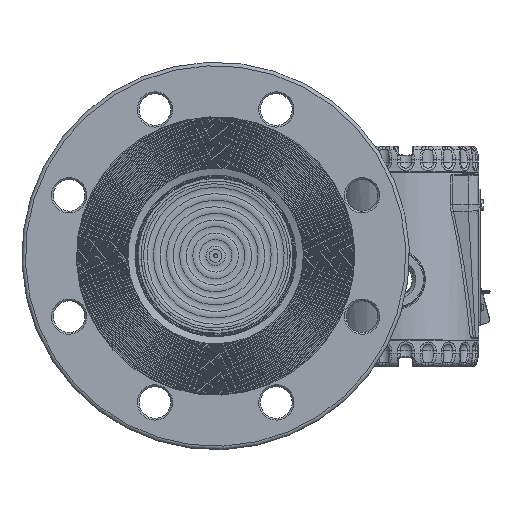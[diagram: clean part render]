
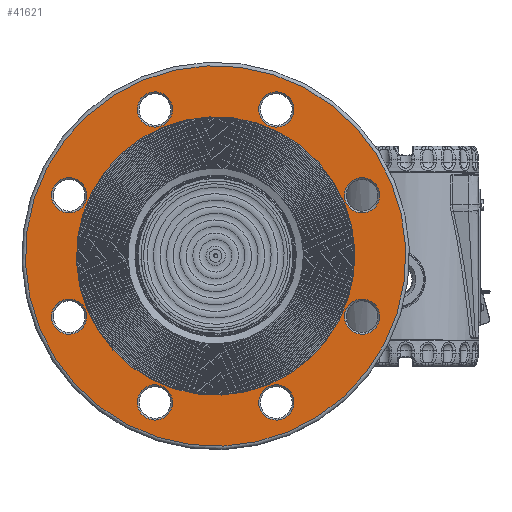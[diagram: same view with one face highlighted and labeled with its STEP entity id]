
A CAD part, top view. The second image highlights one B-rep face of the part: STEP entity #41621.
In plain terms, the highlighted planar face has unit normal (0, 0, 1).
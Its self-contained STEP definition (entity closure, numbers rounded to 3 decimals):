
#695=FACE_BOUND('',#6939,.T.);
#696=FACE_BOUND('',#6940,.T.);
#697=FACE_BOUND('',#6941,.T.);
#698=FACE_BOUND('',#6942,.T.);
#699=FACE_BOUND('',#6943,.T.);
#700=FACE_BOUND('',#6944,.T.);
#701=FACE_BOUND('',#6945,.T.);
#702=FACE_BOUND('',#6946,.T.);
#703=FACE_BOUND('',#6947,.T.);
#2713=PLANE('',#46307);
#4145=FACE_OUTER_BOUND('',#6938,.T.);
#6938=EDGE_LOOP('',(#31840));
#6939=EDGE_LOOP('',(#31841));
#6940=EDGE_LOOP('',(#31842));
#6941=EDGE_LOOP('',(#31843));
#6942=EDGE_LOOP('',(#31844));
#6943=EDGE_LOOP('',(#31845));
#6944=EDGE_LOOP('',(#31846));
#6945=EDGE_LOOP('',(#31847));
#6946=EDGE_LOOP('',(#31848));
#6947=EDGE_LOOP('',(#31849));
#13778=CIRCLE('',#46306,108.);
#13779=CIRCLE('',#46308,10.);
#13780=CIRCLE('',#46309,10.);
#13781=CIRCLE('',#46310,10.);
#13782=CIRCLE('',#46311,10.);
#13783=CIRCLE('',#46312,79.);
#13784=CIRCLE('',#46313,10.);
#13785=CIRCLE('',#46314,10.);
#13786=CIRCLE('',#46315,10.);
#13787=CIRCLE('',#46316,10.);
#18309=VERTEX_POINT('',#73694);
#18310=VERTEX_POINT('',#73698);
#18311=VERTEX_POINT('',#73700);
#18312=VERTEX_POINT('',#73702);
#18313=VERTEX_POINT('',#73704);
#18314=VERTEX_POINT('',#73706);
#18315=VERTEX_POINT('',#73708);
#18316=VERTEX_POINT('',#73710);
#18317=VERTEX_POINT('',#73712);
#18318=VERTEX_POINT('',#73714);
#23112=EDGE_CURVE('',#18309,#18309,#13778,.T.);
#23113=EDGE_CURVE('',#18310,#18310,#13779,.T.);
#23114=EDGE_CURVE('',#18311,#18311,#13780,.T.);
#23115=EDGE_CURVE('',#18312,#18312,#13781,.T.);
#23116=EDGE_CURVE('',#18313,#18313,#13782,.T.);
#23117=EDGE_CURVE('',#18314,#18314,#13783,.T.);
#23118=EDGE_CURVE('',#18315,#18315,#13784,.T.);
#23119=EDGE_CURVE('',#18316,#18316,#13785,.T.);
#23120=EDGE_CURVE('',#18317,#18317,#13786,.T.);
#23121=EDGE_CURVE('',#18318,#18318,#13787,.T.);
#31840=ORIENTED_EDGE('',*,*,#23112,.F.);
#31841=ORIENTED_EDGE('',*,*,#23113,.F.);
#31842=ORIENTED_EDGE('',*,*,#23114,.F.);
#31843=ORIENTED_EDGE('',*,*,#23115,.F.);
#31844=ORIENTED_EDGE('',*,*,#23116,.F.);
#31845=ORIENTED_EDGE('',*,*,#23117,.F.);
#31846=ORIENTED_EDGE('',*,*,#23118,.F.);
#31847=ORIENTED_EDGE('',*,*,#23119,.F.);
#31848=ORIENTED_EDGE('',*,*,#23120,.F.);
#31849=ORIENTED_EDGE('',*,*,#23121,.F.);
#41621=ADVANCED_FACE('',(#4145,#695,#696,#697,#698,#699,#700,#701,#702,
#703),#2713,.T.);
#46306=AXIS2_PLACEMENT_3D('',#73696,#54653,#54654);
#46307=AXIS2_PLACEMENT_3D('',#73697,#54655,#54656);
#46308=AXIS2_PLACEMENT_3D('',#73699,#54657,#54658);
#46309=AXIS2_PLACEMENT_3D('',#73701,#54659,#54660);
#46310=AXIS2_PLACEMENT_3D('',#73703,#54661,#54662);
#46311=AXIS2_PLACEMENT_3D('',#73705,#54663,#54664);
#46312=AXIS2_PLACEMENT_3D('',#73707,#54665,#54666);
#46313=AXIS2_PLACEMENT_3D('',#73709,#54667,#54668);
#46314=AXIS2_PLACEMENT_3D('',#73711,#54669,#54670);
#46315=AXIS2_PLACEMENT_3D('',#73713,#54671,#54672);
#46316=AXIS2_PLACEMENT_3D('',#73715,#54673,#54674);
#54653=DIRECTION('center_axis',(0.,0.,-1.));
#54654=DIRECTION('ref_axis',(-1.,0.,0.));
#54655=DIRECTION('center_axis',(0.,0.,1.));
#54656=DIRECTION('ref_axis',(1.,0.,0.));
#54657=DIRECTION('center_axis',(0.,0.,1.));
#54658=DIRECTION('ref_axis',(-0.707,0.707,0.));
#54659=DIRECTION('center_axis',(0.,0.,1.));
#54660=DIRECTION('ref_axis',(0.707,0.707,0.));
#54661=DIRECTION('center_axis',(0.,0.,1.));
#54662=DIRECTION('ref_axis',(-0.707,-0.707,0.));
#54663=DIRECTION('center_axis',(0.,0.,1.));
#54664=DIRECTION('ref_axis',(0.,-1.,0.));
#54665=DIRECTION('center_axis',(0.,0.,1.));
#54666=DIRECTION('ref_axis',(-1.,0.,0.));
#54667=DIRECTION('center_axis',(0.,0.,1.));
#54668=DIRECTION('ref_axis',(0.707,-0.707,0.));
#54669=DIRECTION('center_axis',(0.,0.,1.));
#54670=DIRECTION('ref_axis',(-1.,0.,0.));
#54671=DIRECTION('center_axis',(0.,0.,1.));
#54672=DIRECTION('ref_axis',(1.,0.,0.));
#54673=DIRECTION('center_axis',(0.,0.,1.));
#54674=DIRECTION('ref_axis',(0.,1.,0.));
#73694=CARTESIAN_POINT('',(108.,0.,17.));
#73696=CARTESIAN_POINT('Origin',(0.,0.,17.));
#73697=CARTESIAN_POINT('Origin',(0.,0.,
17.));
#73698=CARTESIAN_POINT('',(70.711,56.569,17.));
#73699=CARTESIAN_POINT('Origin',(63.64,63.64,17.));
#73700=CARTESIAN_POINT('',(56.569,-70.711,17.));
#73701=CARTESIAN_POINT('Origin',(63.64,-63.64,17.));
#73702=CARTESIAN_POINT('',(-56.569,70.711,17.));
#73703=CARTESIAN_POINT('Origin',(-63.64,63.64,17.));
#73704=CARTESIAN_POINT('',(-90.,10.,17.));
#73705=CARTESIAN_POINT('Origin',(-90.,0.,17.));
#73706=CARTESIAN_POINT('',(79.,0.,17.));
#73707=CARTESIAN_POINT('Origin',(0.,0.,17.));
#73708=CARTESIAN_POINT('',(-70.711,-56.569,17.));
#73709=CARTESIAN_POINT('Origin',(-63.64,-63.64,17.));
#73710=CARTESIAN_POINT('',(10.,90.,17.));
#73711=CARTESIAN_POINT('Origin',(0.,90.,17.));
#73712=CARTESIAN_POINT('',(-10.,-90.,17.));
#73713=CARTESIAN_POINT('Origin',(0.,-90.,17.));
#73714=CARTESIAN_POINT('',(90.,-10.,17.));
#73715=CARTESIAN_POINT('Origin',(90.,0.,17.));
